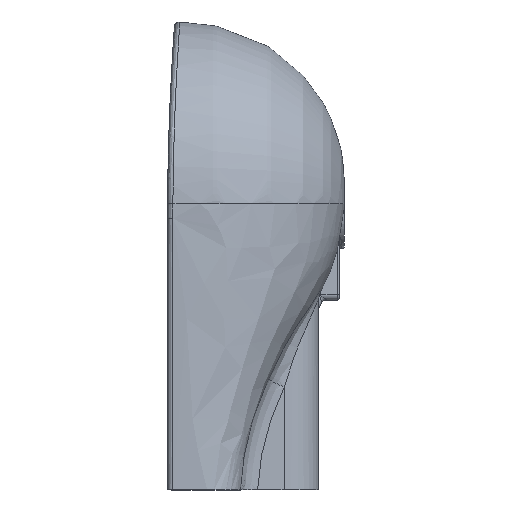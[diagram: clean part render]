
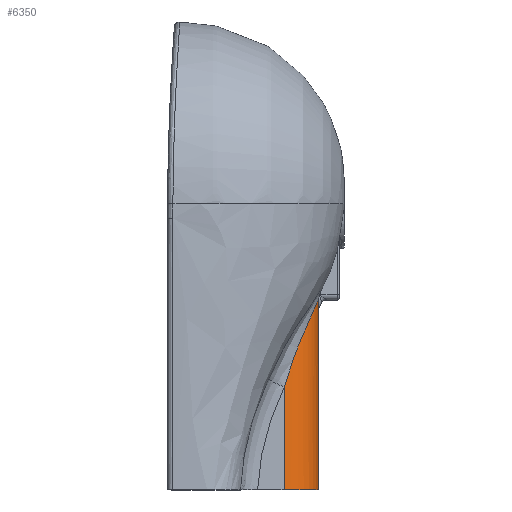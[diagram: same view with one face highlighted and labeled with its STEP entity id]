
A CAD part, left-side view. The second image highlights one B-rep face of the part: STEP entity #6350.
In plain terms, the highlighted cylindrical face has radius 40 mm (diameter 80 mm), a partial arc.
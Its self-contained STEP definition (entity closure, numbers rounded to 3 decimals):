
#266 = CARTESIAN_POINT ( 'NONE',  ( -236.914, -144.627, 181.873 ) ) ;
#314 = CARTESIAN_POINT ( 'NONE',  ( -247.684, -141.559, 175.196 ) ) ;
#370 = CARTESIAN_POINT ( 'NONE',  ( -260.006, -132.997, 155.612 ) ) ;
#411 = B_SPLINE_CURVE_WITH_KNOTS ( 'NONE', 3,
 ( #1458, #5116, #6355, #14680, #7566, #266, #8773, #1505, #9989, #2718, #11187, #3941, #12384, #5165, #13567, #6402, #14726, #7616, #314, #8826, #1561, #10036, #2769, #11241, #3990, #12433, #5214, #13612, #6454, #14774, #7671, #370, #8869, #1604, #10088, #2815, #11290, #4042, #12487, #5262, #13665, #6508, #14827, #7717, #432, #8922, #1658, #10141 ),
 .UNSPECIFIED., .F., .F.,
 ( 4, 2, 2, 2, 2, 2, 2, 2, 2, 2, 2, 2, 2, 2, 2, 2, 2, 2, 2, 2, 2, 2, 2, 4 ),
 ( 0., 0.003, 0.005, 0.007, 0.008, 0.01, 0.012, 0.013, 0.016, 0.02, 0.023, 0.026, 0.033, 0.036, 0.04, 0.043, 0.045, 0.046, 0.053, 0.066, 0.073, 0.079, 0.092, 0.106 ),
 .UNSPECIFIED. ) ;
#432 = CARTESIAN_POINT ( 'NONE',  ( -269.54, -117.25, 115.325 ) ) ;
#582 = LINE ( 'NONE', #4816, #11932 ) ;
#791 = VERTEX_POINT ( 'NONE', #4178 ) ;
#1293 = CARTESIAN_POINT ( 'NONE',  ( -231.436, -105., 0. ) ) ;
#1458 = CARTESIAN_POINT ( 'NONE',  ( -231.436, -145., 182.18 ) ) ;
#1505 = CARTESIAN_POINT ( 'NONE',  ( -238.507, -144.374, 181.433 ) ) ;
#1561 = CARTESIAN_POINT ( 'NONE',  ( -249.717, -140.586, 172.773 ) ) ;
#1604 = CARTESIAN_POINT ( 'NONE',  ( -260.627, -132.349, 154.231 ) ) ;
#1658 = CARTESIAN_POINT ( 'NONE',  ( -270.602, -113.227, 102.814 ) ) ;
#1923 = FACE_OUTER_BOUND ( 'NONE', #8715, .T. ) ;
#2199 = EDGE_CURVE ( 'NONE', #9080, #8164, #582, .T. ) ;
#2274 = ORIENTED_EDGE ( 'NONE', *, *, #11348, .F. ) ;
#2502 = ORIENTED_EDGE ( 'NONE', *, *, #9358, .F. ) ;
#2515 = DIRECTION ( 'NONE',  ( 0., -1., 0. ) ) ;
#2718 = CARTESIAN_POINT ( 'NONE',  ( -240.05, -144.065, 180.871 ) ) ;
#2769 = CARTESIAN_POINT ( 'NONE',  ( -251.607, -139.549, 170.279 ) ) ;
#2815 = CARTESIAN_POINT ( 'NONE',  ( -261.8, -131.065, 151.441 ) ) ;
#3244 = CYLINDRICAL_SURFACE ( 'NONE', #8199, 40. ) ;
#3442 = DIRECTION ( 'NONE',  ( -1., 0., 0. ) ) ;
#3941 = CARTESIAN_POINT ( 'NONE',  ( -241.527, -143.709, 180.201 ) ) ;
#3990 = CARTESIAN_POINT ( 'NONE',  ( -254.498, -137.709, 165.991 ) ) ;
#4042 = CARTESIAN_POINT ( 'NONE',  ( -264.411, -127.738, 143.776 ) ) ;
#4178 = CARTESIAN_POINT ( 'NONE',  ( -231.436, -145., 0. ) ) ;
#4816 = CARTESIAN_POINT ( 'NONE',  ( -270.828, -111.946, 280. ) ) ;
#5116 = CARTESIAN_POINT ( 'NONE',  ( -232.547, -145., 182.308 ) ) ;
#5159 = CARTESIAN_POINT ( 'NONE',  ( -270.828, -111.946, 98.608 ) ) ;
#5165 = CARTESIAN_POINT ( 'NONE',  ( -242.912, -143.321, 179.407 ) ) ;
#5214 = CARTESIAN_POINT ( 'NONE',  ( -256.563, -136.13, 162.437 ) ) ;
#5262 = CARTESIAN_POINT ( 'NONE',  ( -266.752, -123.804, 133.773 ) ) ;
#5746 = CARTESIAN_POINT ( 'NONE',  ( -231.436, -145., 280. ) ) ;
#5890 = CIRCLE ( 'NONE', #10220, 40. ) ;
#6350 = ADVANCED_FACE ( 'NONE', ( #1923 ), #3244, .T. ) ;
#6355 = CARTESIAN_POINT ( 'NONE',  ( -233.648, -144.954, 182.318 ) ) ;
#6402 = CARTESIAN_POINT ( 'NONE',  ( -244.631, -142.772, 178.172 ) ) ;
#6454 = CARTESIAN_POINT ( 'NONE',  ( -258.013, -134.901, 159.724 ) ) ;
#6508 = CARTESIAN_POINT ( 'NONE',  ( -267.863, -121.545, 127.669 ) ) ;
#7566 = CARTESIAN_POINT ( 'NONE',  ( -235.831, -144.762, 182.085 ) ) ;
#7616 = CARTESIAN_POINT ( 'NONE',  ( -246.961, -141.873, 175.981 ) ) ;
#7671 = CARTESIAN_POINT ( 'NONE',  ( -259.366, -133.64, 156.987 ) ) ;
#7717 = CARTESIAN_POINT ( 'NONE',  ( -269.069, -118.644, 119.463 ) ) ;
#7898 = ORIENTED_EDGE ( 'NONE', *, *, #9865, .T. ) ;
#8164 = VERTEX_POINT ( 'NONE', #5159 ) ;
#8199 = AXIS2_PLACEMENT_3D ( 'NONE', #13925, #14205, #3442 ) ;
#8475 = VECTOR ( 'NONE', #14069, 1000. ) ;
#8715 = EDGE_LOOP ( 'NONE', ( #2502, #2274, #7898, #9120 ) ) ;
#8773 = CARTESIAN_POINT ( 'NONE',  ( -237.453, -144.549, 181.741 ) ) ;
#8826 = CARTESIAN_POINT ( 'NONE',  ( -249.057, -140.917, 173.59 ) ) ;
#8869 = CARTESIAN_POINT ( 'NONE',  ( -260.217, -132.78, 155.153 ) ) ;
#8922 = CARTESIAN_POINT ( 'NONE',  ( -270.307, -114.541, 107. ) ) ;
#9080 = VERTEX_POINT ( 'NONE', #11831 ) ;
#9120 = ORIENTED_EDGE ( 'NONE', *, *, #2199, .F. ) ;
#9358 = EDGE_CURVE ( 'NONE', #791, #9080, #5890, .T. ) ;
#9779 = DIRECTION ( 'NONE',  ( 0., 0., -1. ) ) ;
#9865 = EDGE_CURVE ( 'NONE', #12147, #8164, #411, .T. ) ;
#9989 = CARTESIAN_POINT ( 'NONE',  ( -239.026, -144.277, 181.258 ) ) ;
#10036 = CARTESIAN_POINT ( 'NONE',  ( -250.992, -139.901, 171.117 ) ) ;
#10088 = CARTESIAN_POINT ( 'NONE',  ( -260.827, -132.134, 153.768 ) ) ;
#10141 = CARTESIAN_POINT ( 'NONE',  ( -270.828, -111.946, 98.608 ) ) ;
#10220 = AXIS2_PLACEMENT_3D ( 'NONE', #1293, #9779, #2515 ) ;
#10956 = CARTESIAN_POINT ( 'NONE',  ( -231.436, -145., 182.18 ) ) ;
#11187 = CARTESIAN_POINT ( 'NONE',  ( -240.553, -143.95, 180.66 ) ) ;
#11241 = CARTESIAN_POINT ( 'NONE',  ( -253.39, -138.466, 167.731 ) ) ;
#11290 = CARTESIAN_POINT ( 'NONE',  ( -262.499, -130.223, 149.545 ) ) ;
#11348 = EDGE_CURVE ( 'NONE', #12147, #791, #12027, .T. ) ;
#11831 = CARTESIAN_POINT ( 'NONE',  ( -270.828, -111.946, 0. ) ) ;
#11932 = VECTOR ( 'NONE', #14283, 1000. ) ;
#12027 = LINE ( 'NONE', #5746, #8475 ) ;
#12147 = VERTEX_POINT ( 'NONE', #10956 ) ;
#12384 = CARTESIAN_POINT ( 'NONE',  ( -242., -143.583, 179.951 ) ) ;
#12433 = CARTESIAN_POINT ( 'NONE',  ( -256.059, -136.53, 163.332 ) ) ;
#12487 = CARTESIAN_POINT ( 'NONE',  ( -265.443, -126.135, 139.821 ) ) ;
#13567 = CARTESIAN_POINT ( 'NONE',  ( -243.352, -143.187, 179.112 ) ) ;
#13612 = CARTESIAN_POINT ( 'NONE',  ( -257.54, -135.315, 160.633 ) ) ;
#13665 = CARTESIAN_POINT ( 'NONE',  ( -267.146, -123.042, 131.743 ) ) ;
#13925 = CARTESIAN_POINT ( 'NONE',  ( -231.436, -105., 280. ) ) ;
#14069 = DIRECTION ( 'NONE',  ( 0., 0., -1. ) ) ;
#14205 = DIRECTION ( 'NONE',  ( 0., 0., -1. ) ) ;
#14283 = DIRECTION ( 'NONE',  ( 0., 0., 1. ) ) ;
#14680 = CARTESIAN_POINT ( 'NONE',  ( -235.287, -144.818, 182.164 ) ) ;
#14726 = CARTESIAN_POINT ( 'NONE',  ( -245.432, -142.481, 177.471 ) ) ;
#14774 = CARTESIAN_POINT ( 'NONE',  ( -258.926, -134.064, 157.902 ) ) ;
#14827 = CARTESIAN_POINT ( 'NONE',  ( -268.187, -120.811, 125.623 ) ) ;
